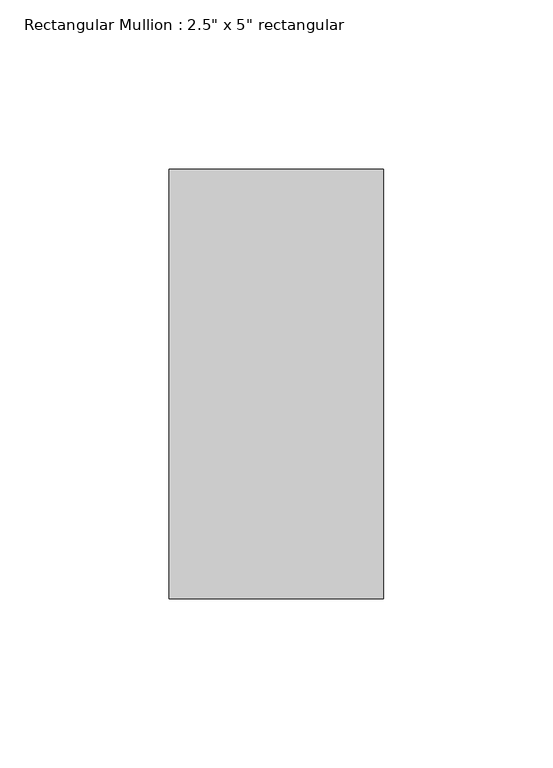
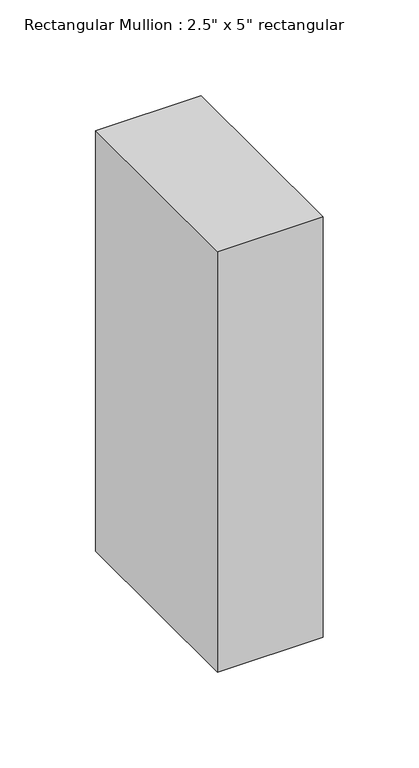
"""IFC4 building model written with IfcOpenShell, lengths in millimetres: member geometry."""

from ifc_helpers import new_model, si_unit, frame, origin, place, context, project, spatial, polyline, outline, extrude, source, transform, mapped, element, save


def member_f5b3432e(model_context):
    return source(origin(), model_context, "Body", "SweptSolid", [
        extrude(outline(polyline([(0.0, 63.5), (0.0, -63.5), (-63.5, -63.5), (-63.5, 63.5), (0.0, 63.5)])), frame((0.0, 0.0, -267.49375), z_axis=(0.0, 0.0, 1.0), x_axis=(1.0, 0.0, 0.0)), (0.0, 0.0, 1.0), 267.49375),
    ])


if __name__ == "__main__":
    model = new_model("IFC4")
    model_context = context("Model", 3, world=origin())
    ifc_project = project(units=[si_unit("LENGTHUNIT", "METRE", prefix="MILLI")], contexts=[model_context])
    site = spatial("IfcSite", under=ifc_project)
    building = spatial("IfcBuilding", under=site)
    placement = place(None, origin())
    member_shape = member_f5b3432e(model_context)
    element("IfcMember", 1, ObjectType="Rectangular Mullion : 2.5\" x 5\" rectangular", at=placement, inside=building, context=model_context, shape_type="MappedRepresentation", body=[
        mapped(member_shape, transform((0.0, 0.0, 0.0), x_axis=(1.0, 0.0, 0.0), y_axis=(0.0, 1.0, 0.0), z_axis=(0.0, 0.0, 1.0))),
    ])
    save(model, "model.ifc")
